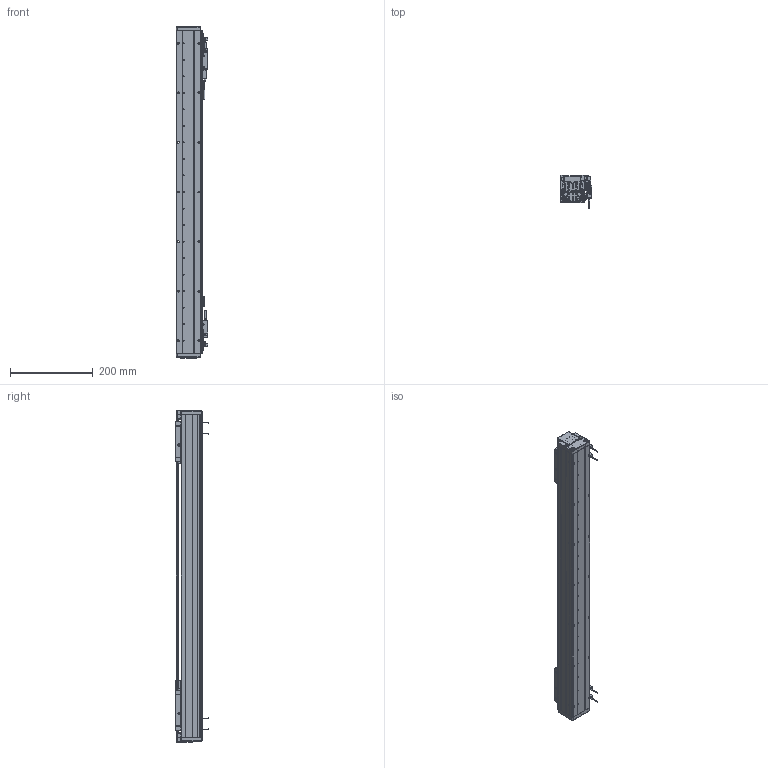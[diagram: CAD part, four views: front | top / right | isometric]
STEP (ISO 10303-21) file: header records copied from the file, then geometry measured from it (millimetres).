
FILE_DESCRIPTION (( 'STEP AP203' ), '1' );
FILE_NAME ('DA-A60-2-B1-T540-C010-0.2 眻盄萇儂.STEP', '2025-08-13T01:16:02', ( '' ), ( '' ), 'SwSTEP 2.0', 'SolidWorks 2019', '' );
FILE_SCHEMA (( 'CONFIG_CONTROL_DESIGN' ));
Length unit declared in the file: millimetre
Products named in the file (27): 葩璃 DA60-DG-H-N-00 傷裔^DA-A60-2-B1-T60-C010-0.2-N; DA-A60-2-B1-T540-C010-0.2 眻盄萇儂; AU60-V 幗紩賑怢; ｸｴｼ DA60-GYP-ZJ-01 ﾖﾐｼ荵箏邵ﾐﾓｦﾆｬ^DA-A60-2-B1-T60-C010-0.2-N(ﾄｬﾈﾏ); 复件 DA60-B1-GT-00 滑块钢轨^DA60-YT-B1-HT-B-01 一体化滑动台板; 葩璃 DA60-DMT-DTJ-00 黍杅芛盓殤^DA-A60-2-B1-T60-C010-0.2-N; ｸｴｼ DA60-DMT-DTJ-ZJ-00 ﾖﾐｼ荼ﾁﾊﾍｷﾖｧｼﾜ^DA-A60-2-B1-T60-C010-0.2-N; AU60-L 菁釱絳寢; DA60-YT-B1-HT-B-01 珨极趙賑雄怢啣-1; DA60-YT-B1-HT-B-01 珨极趙賑雄怢啣; 葩璃 DA60-HK-DP-01 結え^AU60-V 幗紩賑怢; 葩璃 鞠褒情蹟譫 M3^DA-A60-2-B1-T60-C010-0.2-N(GB_FASTENER_NUT_STNAB M3-C); 复件 纯铜油杯 6x6mm^AU60-V 滚珠滑台; 葩璃 XD-U-02  棠掑喜^DA-A60-2-B1-T60-C010-0.2-N; DA60-T-002-00  裔啣; 葩璃 AKM01-W030-TRL^DA-A60-2-B1-T60-C010-0.2-N; AU60-V 幗紩賑怢-1; 葩璃 PM-T45^DA-A60-2-B1-T60-C010-0.2-N; DA60-B1-HT-B-03 賑雄怢啣; 葩璃 DA60-XJ-00 砎蝶結輸^DA-A60-2-B1-T60-C010-0.2-N; 葩璃 PM-Y65^DA-A60-2-B1-T60-C010-0.2-N; 葩璃 DMT-010 1米m 0.2M^DA-A60-2-B1-T60-C010-0.2-N; 复件 DA60-HC-XJ-01 中间缓冲橡胶^DA-A60-2-B1-T60-C010-0.2-N; IU-AU60-L-00 菁釱(780); 复件 DA60-GT-T-00 底座钢轨^AU60-L 底座导轨; ｸｴｼ DA-A60-GYP-DMT-00 ｹ箏邵ﾐﾓｦﾆｬ^DA-A60-2-B1-T60-C010-0.2-N(ﾄｬﾈﾏ); ｸｴｼ BAKM01-W030-C1-TP-0.2 ﾖｱﾏﾟｵ扈巐ｯﾗﾓ^DA-A60-2-B1-T60-C010-0.2-N
Assembly tree (51 placements, depth 4):
  DA-A60-2-B1-T540-C010-0.2 眻盄萇儂
    AU60-L 菁釱絳寢
      IU-AU60-L-00 菁釱(780)
      复件 DA60-GT-T-00 底座钢轨^AU60-L 底座导轨  x2
    AU60-V 幗紩賑怢
      DA60-YT-B1-HT-B-01 珨极趙賑雄怢啣
        DA60-B1-HT-B-03 賑雄怢啣
        复件 DA60-B1-GT-00 滑块钢轨^DA60-YT-B1-HT-B-01 一体化滑动台板  x2
      葩璃 DA60-HK-DP-01 結え^AU60-V 幗紩賑怢  x2
      复件 纯铜油杯 6x6mm^AU60-V 滚珠滑台
    AU60-V 幗紩賑怢-1
      DA60-YT-B1-HT-B-01 珨极趙賑雄怢啣-1
        DA60-B1-HT-B-03 賑雄怢啣
        复件 DA60-B1-GT-00 滑块钢轨^DA60-YT-B1-HT-B-01 一体化滑动台板  x2
      葩璃 DA60-HK-DP-01 結え^AU60-V 幗紩賑怢  x2
      复件 纯铜油杯 6x6mm^AU60-V 滚珠滑台
    ｸｴｼ DA60-DMT-DTJ-ZJ-00 ﾖﾐｼ荼ﾁﾊﾍｷﾖｧｼﾜ^DA-A60-2-B1-T60-C010-0.2-N
    葩璃 PM-Y65^DA-A60-2-B1-T60-C010-0.2-N
    复件 DA60-HC-XJ-01 中间缓冲橡胶^DA-A60-2-B1-T60-C010-0.2-N  x2
    ｸｴｼ DA60-GYP-ZJ-01 ﾖﾐｼ荵箏邵ﾐﾓｦﾆｬ^DA-A60-2-B1-T60-C010-0.2-N(ﾄｬﾈﾏ)
    ｸｴｼ DA-A60-GYP-DMT-00 ｹ箏邵ﾐﾓｦﾆｬ^DA-A60-2-B1-T60-C010-0.2-N(ﾄｬﾈﾏ)  x2
    葩璃 DA60-DMT-DTJ-00 黍杅芛盓殤^DA-A60-2-B1-T60-C010-0.2-N
    葩璃 DMT-010 1米m 0.2M^DA-A60-2-B1-T60-C010-0.2-N  x2
    ｸｴｼ BAKM01-W030-C1-TP-0.2 ﾖｱﾏﾟｵ扈巐ｯﾗﾓ^DA-A60-2-B1-T60-C010-0.2-N  x2
    葩璃 DA60-XJ-00 砎蝶結輸^DA-A60-2-B1-T60-C010-0.2-N  x2
    葩璃 DA60-DG-H-N-00 傷裔^DA-A60-2-B1-T60-C010-0.2-N  x2
    DA60-T-002-00  裔啣
    葩璃 AKM01-W030-TRL^DA-A60-2-B1-T60-C010-0.2-N
    葩璃 PM-T45^DA-A60-2-B1-T60-C010-0.2-N  x4
    葩璃 XD-U-02  棠掑喜^DA-A60-2-B1-T60-C010-0.2-N
    葩璃 鞠褒情蹟譫 M3^DA-A60-2-B1-T60-C010-0.2-N(GB_FASTENER_NUT_STNAB M3-C)  x8
Bounding box: 76.95 x 80 x 804 mm (x, y, z)
Volume: 1813239.7 mm3; surface area: 653995.5 mm2
Topology: 57 solids, 61 shells, 3797 faces, 9737 edges, 5954 vertices
Faces by surface type: plane 1464, cylinder 1385, bspline 592, cone 342, torus 12, sphere 2
Entity records: 85147 total; most frequent: CARTESIAN_POINT 26125, ORIENTED_EDGE 12028, DIRECTION 10985, EDGE_CURVE 6014, AXIS2_PLACEMENT_3D 3824, VERTEX_POINT 3793, LINE 3337, VECTOR 3337
